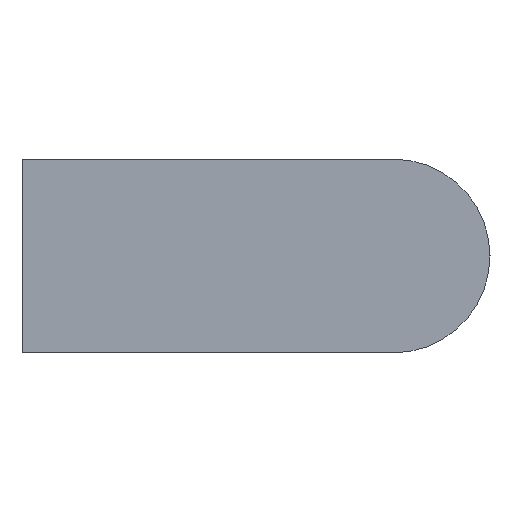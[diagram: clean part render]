
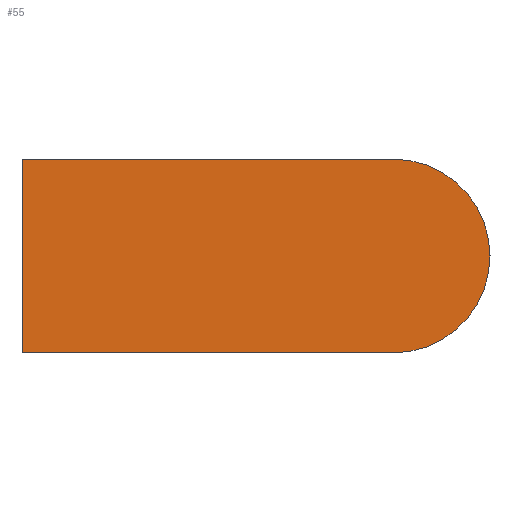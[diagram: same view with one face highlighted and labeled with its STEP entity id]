
A CAD part, left-side view. The second image highlights one B-rep face of the part: STEP entity #55.
In plain terms, the highlighted planar face has unit normal (-1, 0, 0).
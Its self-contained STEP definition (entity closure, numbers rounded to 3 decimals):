
#55 = ADVANCED_FACE( '', ( #116 ), #117, .F. );
#116 = FACE_OUTER_BOUND( '', #181, .T. );
#117 = PLANE( '', #182 );
#181 = EDGE_LOOP( '', ( #269, #270, #271, #272 ) );
#182 = AXIS2_PLACEMENT_3D( '', #273, #274, #275 );
#269 = ORIENTED_EDGE( '', *, *, #371, .F. );
#270 = ORIENTED_EDGE( '', *, *, #357, .F. );
#271 = ORIENTED_EDGE( '', *, *, #344, .F. );
#272 = ORIENTED_EDGE( '', *, *, #372, .F. );
#273 = CARTESIAN_POINT( '', ( -15., -28.04, 0. ) );
#274 = DIRECTION( '', ( 1., 0., 0. ) );
#275 = DIRECTION( '', ( 0., 0., -1. ) );
#344 = EDGE_CURVE( '', #391, #392, #393, .T. );
#357 = EDGE_CURVE( '', #392, #413, #414, .T. );
#371 = EDGE_CURVE( '', #413, #435, #436, .T. );
#372 = EDGE_CURVE( '', #435, #391, #437, .T. );
#391 = VERTEX_POINT( '', #460 );
#392 = VERTEX_POINT( '', #461 );
#393 = LINE( '', #462, #463 );
#413 = VERTEX_POINT( '', #488 );
#414 = LINE( '', #489, #490 );
#435 = VERTEX_POINT( '', #518 );
#436 = LINE( '', #519, #520 );
#437 = CIRCLE( '', #521, 7.32 );
#460 = CARTESIAN_POINT( '', ( -15., -28.04, -7.32 ) );
#461 = CARTESIAN_POINT( '', ( -15., 0., -7.32 ) );
#462 = CARTESIAN_POINT( '', ( -15., -28.04, -7.32 ) );
#463 = VECTOR( '', #548, 1000. );
#488 = CARTESIAN_POINT( '', ( -15., 0., 7.32 ) );
#489 = CARTESIAN_POINT( '', ( -15., 0., -7.32 ) );
#490 = VECTOR( '', #566, 1000. );
#518 = CARTESIAN_POINT( '', ( -15., -28.04, 7.32 ) );
#519 = CARTESIAN_POINT( '', ( -15., 0., 7.32 ) );
#520 = VECTOR( '', #580, 1000. );
#521 = AXIS2_PLACEMENT_3D( '', #581, #582, #583 );
#548 = DIRECTION( '', ( 0., 1., 0. ) );
#566 = DIRECTION( '', ( 0., 0., 1. ) );
#580 = DIRECTION( '', ( 0., -1., 0. ) );
#581 = CARTESIAN_POINT( '', ( -15., -28.04, 0. ) );
#582 = DIRECTION( '', ( 1., 0., 0. ) );
#583 = DIRECTION( '', ( 0., 0., -1. ) );
